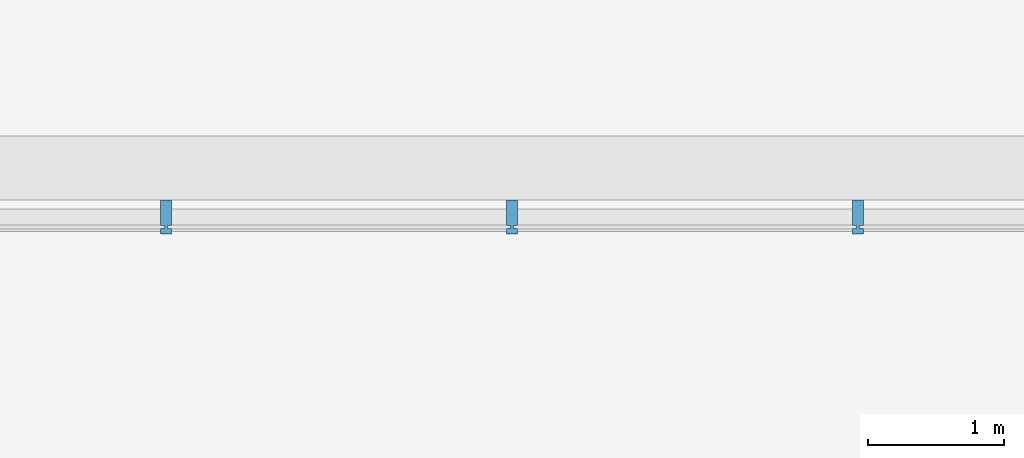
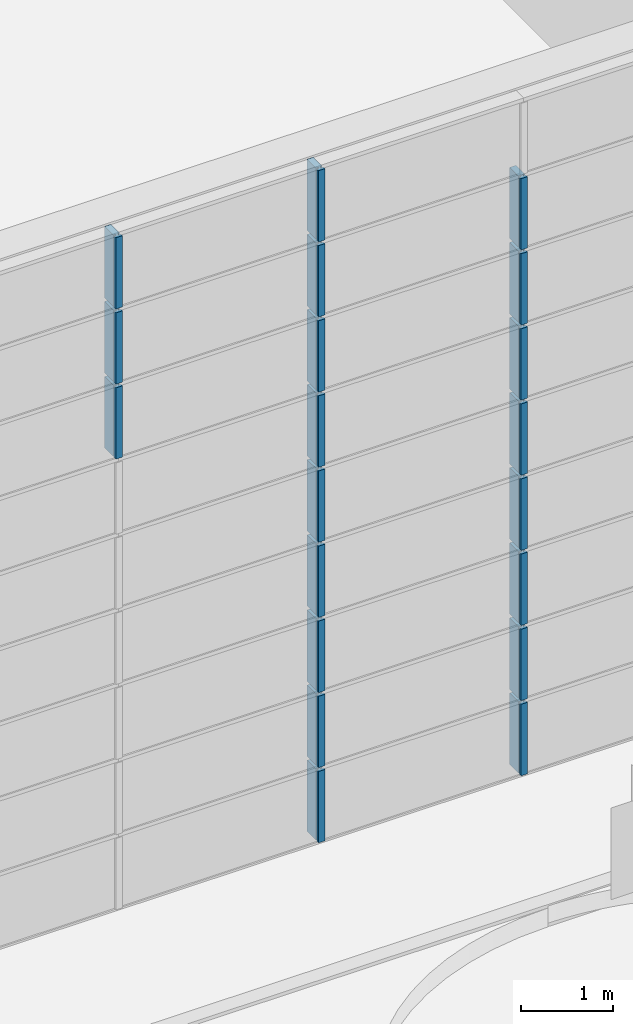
# One storey, part 95 of 105: 20 building element parts, 3 elements without a shape of their own.
"""IFC4 building model written with IfcOpenShell, lengths in millimetres."""

from ifc_helpers import new_model, entity, si_unit, converted_unit, derived_unit, direction, frame, origin_with_axes, place, context, subcontext, project, spatial, triangles, material, element, aggregate, save


model = new_model("IFC4")

# Units and contexts
model_context = context("Model", 3, precision=1e-05, world=origin_with_axes(), true_north=direction((0.0, 1.0)))
body_context = subcontext(model_context, "Body", "Model", "MODEL_VIEW")
ifc_project = project(units=[si_unit("LENGTHUNIT", "METRE", prefix="MILLI"), si_unit("AREAUNIT", "SQUARE_METRE"), si_unit("VOLUMEUNIT", "CUBIC_METRE"), converted_unit("PLANEANGLEUNIT", "DEGREE", entity("IfcLengthMeasure", 0.017453), si_unit("PLANEANGLEUNIT", "RADIAN"), dimensions=[0, 0, 0, 0, 0, 0, 0]), si_unit("SOLIDANGLEUNIT", "STERADIAN"), si_unit("MASSUNIT", "GRAM"), si_unit("TIMEUNIT", "SECOND"), si_unit("THERMODYNAMICTEMPERATUREUNIT", "DEGREE_CELSIUS"), si_unit("LUMINOUSINTENSITYUNIT", "LUMEN"), si_unit("POWERUNIT", "WATT"), derived_unit("THERMALTRANSMITTANCEUNIT", [(si_unit("POWERUNIT", "WATT"), 1), (si_unit("THERMODYNAMICTEMPERATUREUNIT", "KELVIN"), -1), (si_unit("AREAUNIT", "SQUARE_METRE"), -1)])], contexts=[model_context])

# Site, building, storey
site_placement = place(None, origin_with_axes())
site = spatial("IfcSite", under=ifc_project, at=site_placement, Name="Default Site", CompositionType="ELEMENT")
building_placement = place(site_placement, origin_with_axes())
building = spatial("IfcBuilding", under=site, at=building_placement, Name="Default Building", CompositionType="ELEMENT")
storey_placement = place(building_placement, origin_with_axes())
storey = spatial("IfcBuildingStorey", under=building, at=storey_placement, Name="OG - Story", CompositionType="ELEMENT", Elevation=0.0)

# Curtain wall, building element parts
curtain_wall_1_placement = place(storey_placement, origin_with_axes())
curtain_wall_1 = element("IfcCurtainWall", 1, at=curtain_wall_1_placement, inside=storey, Name="Fassade-005", PredefinedType="NOTDEFINED")
ifc_material = material(Name="Blech")
building_element_part_1_placement = place(curtain_wall_1_placement, frame((52496.845873, -27789.262838, 3000.0), z_axis=(0.0, 0.0, 1.0), x_axis=(1.0, 0.0, 0.0)))
building_element_part_1 = element("IfcBuildingElementPart", 2, at=building_element_part_1_placement, material=ifc_material, Name="Blech", PredefinedType="NOTDEFINED", context=body_context, shape_type="Tessellation", body=[
    triangles([(16620.909, 10.0, 975.0), (16620.909, 200.0, 975.0), (16590.909, 10.0, 975.0), (16570.909, 10.0, 975.0), (16590.909, -9.999, 975.0), (16620.909, -49.999, 975.0), (16620.909, -9.999, 975.0), (16540.909, 200.0, 975.0), (16540.909, 10.0, 975.0), (16570.909, -9.999, 975.0), (16540.909, -9.999, 975.0), (16540.909, -49.999, 975.0), (16590.909, 10.0, 25.0), (16620.909, 10.0, 25.0), (16620.909, 200.0, 25.0), (16540.909, 200.0, 25.0), (16540.909, 10.0, 25.0), (16570.909, 10.0, 25.0), (16570.909, -9.999, 25.0), (16540.909, -9.999, 25.0), (16540.909, -49.999, 25.0), (16620.909, -49.999, 25.0), (16620.909, -9.999, 25.0), (16590.909, -9.999, 25.0)], [[1, 2, 3], [3, 2, 4], [3, 4, 5], [5, 4, 6], [5, 6, 7], [8, 9, 4], [8, 4, 2], [6, 4, 10], [6, 10, 11], [6, 11, 12], [1, 3, 13], [1, 13, 14], [1, 14, 15], [1, 15, 2], [2, 15, 16], [2, 16, 8], [9, 8, 16], [9, 16, 17], [9, 17, 18], [9, 18, 4], [4, 18, 19], [4, 19, 10], [11, 10, 19], [11, 19, 20], [20, 21, 12], [20, 12, 11], [12, 21, 22], [12, 22, 6], [23, 7, 6], [23, 6, 22], [5, 7, 23], [5, 23, 24], [3, 5, 24], [3, 24, 13], [23, 22, 24], [24, 22, 19], [24, 19, 13], [13, 19, 15], [13, 15, 14], [21, 20, 19], [21, 19, 22], [15, 19, 18], [15, 18, 17], [15, 17, 16]], closed=False),
])
building_element_part_2_placement = place(curtain_wall_1_placement, frame((52496.845873, -27789.262838, 3000.0), z_axis=(0.0, 0.0, 1.0), x_axis=(1.0, 0.0, 0.0)))
building_element_part_2 = element("IfcBuildingElementPart", 3, at=building_element_part_2_placement, material=ifc_material, Name="Blech", PredefinedType="NOTDEFINED", context=body_context, shape_type="Tessellation", body=[
    triangles([(19171.818, 10.0, 975.0), (19171.818, 200.0, 975.0), (19141.818, 10.0, 975.0), (19121.818, 10.0, 975.0), (19141.818, -9.999, 975.0), (19171.818, -49.999, 975.0), (19171.818, -9.999, 975.0), (19091.818, 200.0, 975.0), (19091.818, 10.0, 975.0), (19121.818, -9.999, 975.0), (19091.818, -9.999, 975.0), (19091.818, -49.999, 975.0), (19141.818, 10.0, 25.0), (19171.818, 10.0, 25.0), (19171.818, 200.0, 25.0), (19091.818, 200.0, 25.0), (19091.818, 10.0, 25.0), (19121.818, 10.0, 25.0), (19121.818, -9.999, 25.0), (19091.818, -9.999, 25.0), (19091.818, -49.999, 25.0), (19171.818, -49.999, 25.0), (19171.818, -9.999, 25.0), (19141.818, -9.999, 25.0)], [[1, 2, 3], [3, 2, 4], [3, 4, 5], [5, 4, 6], [5, 6, 7], [8, 9, 4], [8, 4, 2], [6, 4, 10], [6, 10, 11], [6, 11, 12], [1, 3, 13], [1, 13, 14], [1, 14, 15], [1, 15, 2], [2, 15, 16], [2, 16, 8], [9, 8, 16], [9, 16, 17], [9, 17, 18], [9, 18, 4], [4, 18, 19], [4, 19, 10], [11, 10, 19], [11, 19, 20], [20, 21, 12], [20, 12, 11], [12, 21, 22], [12, 22, 6], [23, 7, 6], [23, 6, 22], [5, 7, 23], [5, 23, 24], [3, 5, 24], [3, 24, 13], [23, 22, 24], [24, 22, 19], [24, 19, 13], [13, 19, 15], [13, 15, 14], [21, 20, 19], [21, 19, 22], [15, 19, 18], [15, 18, 17], [15, 17, 16]], closed=False),
])
building_element_part_3_placement = place(curtain_wall_1_placement, frame((52496.845873, -27789.262838, 3000.0), z_axis=(0.0, 0.0, 1.0), x_axis=(1.0, 0.0, 0.0)))
building_element_part_3 = element("IfcBuildingElementPart", 4, at=building_element_part_3_placement, material=ifc_material, Name="Blech", PredefinedType="NOTDEFINED", context=body_context, shape_type="Tessellation", body=[
    triangles([(16620.909, 10.0, 1975.0), (16620.909, 200.0, 1975.0), (16590.909, 10.0, 1975.0), (16570.909, 10.0, 1975.0), (16590.909, -9.999, 1975.0), (16620.909, -49.999, 1975.0), (16620.909, -9.999, 1975.0), (16540.909, 200.0, 1975.0), (16540.909, 10.0, 1975.0), (16570.909, -9.999, 1975.0), (16540.909, -9.999, 1975.0), (16540.909, -49.999, 1975.0), (16590.909, 10.0, 1025.0), (16620.909, 10.0, 1025.0), (16620.909, 200.0, 1025.0), (16540.909, 200.0, 1025.0), (16540.909, 10.0, 1025.0), (16570.909, 10.0, 1025.0), (16570.909, -9.999, 1025.0), (16540.909, -9.999, 1025.0), (16540.909, -49.999, 1025.0), (16620.909, -49.999, 1025.0), (16620.909, -9.999, 1025.0), (16590.909, -9.999, 1025.0)], [[1, 2, 3], [3, 2, 4], [3, 4, 5], [5, 4, 6], [5, 6, 7], [8, 9, 4], [8, 4, 2], [6, 4, 10], [6, 10, 11], [6, 11, 12], [1, 3, 13], [1, 13, 14], [1, 14, 15], [1, 15, 2], [2, 15, 16], [2, 16, 8], [9, 8, 16], [9, 16, 17], [9, 17, 18], [9, 18, 4], [4, 18, 19], [4, 19, 10], [11, 10, 19], [11, 19, 20], [20, 21, 12], [20, 12, 11], [12, 21, 22], [12, 22, 6], [23, 7, 6], [23, 6, 22], [5, 7, 23], [5, 23, 24], [3, 5, 24], [3, 24, 13], [23, 22, 24], [24, 22, 19], [24, 19, 13], [13, 19, 15], [13, 15, 14], [21, 20, 19], [21, 19, 22], [15, 19, 18], [15, 18, 17], [15, 17, 16]], closed=False),
])
building_element_part_4_placement = place(curtain_wall_1_placement, frame((52496.845873, -27789.262838, 3000.0), z_axis=(0.0, 0.0, 1.0), x_axis=(1.0, 0.0, 0.0)))
building_element_part_4 = element("IfcBuildingElementPart", 5, at=building_element_part_4_placement, material=ifc_material, Name="Blech", PredefinedType="NOTDEFINED", context=body_context, shape_type="Tessellation", body=[
    triangles([(19171.818, 10.0, 1975.0), (19171.818, 200.0, 1975.0), (19141.818, 10.0, 1975.0), (19121.818, 10.0, 1975.0), (19141.818, -9.999, 1975.0), (19171.818, -49.999, 1975.0), (19171.818, -9.999, 1975.0), (19091.818, 200.0, 1975.0), (19091.818, 10.0, 1975.0), (19121.818, -9.999, 1975.0), (19091.818, -9.999, 1975.0), (19091.818, -49.999, 1975.0), (19141.818, 10.0, 1025.0), (19171.818, 10.0, 1025.0), (19171.818, 200.0, 1025.0), (19091.818, 200.0, 1025.0), (19091.818, 10.0, 1025.0), (19121.818, 10.0, 1025.0), (19121.818, -9.999, 1025.0), (19091.818, -9.999, 1025.0), (19091.818, -49.999, 1025.0), (19171.818, -49.999, 1025.0), (19171.818, -9.999, 1025.0), (19141.818, -9.999, 1025.0)], [[1, 2, 3], [3, 2, 4], [3, 4, 5], [5, 4, 6], [5, 6, 7], [8, 9, 4], [8, 4, 2], [6, 4, 10], [6, 10, 11], [6, 11, 12], [1, 3, 13], [1, 13, 14], [1, 14, 15], [1, 15, 2], [2, 15, 16], [2, 16, 8], [9, 8, 16], [9, 16, 17], [9, 17, 18], [9, 18, 4], [4, 18, 19], [4, 19, 10], [11, 10, 19], [11, 19, 20], [20, 21, 12], [20, 12, 11], [12, 21, 22], [12, 22, 6], [23, 7, 6], [23, 6, 22], [5, 7, 23], [5, 23, 24], [3, 5, 24], [3, 24, 13], [23, 22, 24], [24, 22, 19], [24, 19, 13], [13, 19, 15], [13, 15, 14], [21, 20, 19], [21, 19, 22], [15, 19, 18], [15, 18, 17], [15, 17, 16]], closed=False),
])
building_element_part_5_placement = place(curtain_wall_1_placement, frame((52496.845873, -27789.262838, 3000.0), z_axis=(0.0, 0.0, 1.0), x_axis=(1.0, 0.0, 0.0)))
building_element_part_5 = element("IfcBuildingElementPart", 6, at=building_element_part_5_placement, material=ifc_material, Name="Blech", PredefinedType="NOTDEFINED", context=body_context, shape_type="Tessellation", body=[
    triangles([(16620.909, 10.0, 2975.0), (16620.909, 200.0, 2975.0), (16590.909, 10.0, 2975.0), (16570.909, 10.0, 2975.0), (16590.909, -9.999, 2975.0), (16620.909, -49.999, 2975.0), (16620.909, -9.999, 2975.0), (16540.909, 200.0, 2975.0), (16540.909, 10.0, 2975.0), (16570.909, -9.999, 2975.0), (16540.909, -9.999, 2975.0), (16540.909, -49.999, 2975.0), (16590.909, 10.0, 2025.0), (16620.909, 10.0, 2025.0), (16620.909, 200.0, 2025.0), (16540.909, 200.0, 2025.0), (16540.909, 10.0, 2025.0), (16570.909, 10.0, 2025.0), (16570.909, -9.999, 2025.0), (16540.909, -9.999, 2025.0), (16540.909, -49.999, 2025.0), (16620.909, -49.999, 2025.0), (16620.909, -9.999, 2025.0), (16590.909, -9.999, 2025.0)], [[1, 2, 3], [3, 2, 4], [3, 4, 5], [5, 4, 6], [5, 6, 7], [8, 9, 4], [8, 4, 2], [6, 4, 10], [6, 10, 11], [6, 11, 12], [1, 3, 13], [1, 13, 14], [1, 14, 15], [1, 15, 2], [2, 15, 16], [2, 16, 8], [9, 8, 16], [9, 16, 17], [9, 17, 18], [9, 18, 4], [4, 18, 19], [4, 19, 10], [11, 10, 19], [11, 19, 20], [20, 21, 12], [20, 12, 11], [12, 21, 22], [12, 22, 6], [23, 7, 6], [23, 6, 22], [5, 7, 23], [5, 23, 24], [3, 5, 24], [3, 24, 13], [23, 22, 24], [24, 22, 19], [24, 19, 13], [13, 19, 15], [13, 15, 14], [21, 20, 19], [21, 19, 22], [15, 19, 18], [15, 18, 17], [15, 17, 16]], closed=False),
])
building_element_part_6_placement = place(curtain_wall_1_placement, frame((52496.845873, -27789.262838, 3000.0), z_axis=(0.0, 0.0, 1.0), x_axis=(1.0, 0.0, 0.0)))
building_element_part_6 = element("IfcBuildingElementPart", 7, at=building_element_part_6_placement, material=ifc_material, Name="Blech", PredefinedType="NOTDEFINED", context=body_context, shape_type="Tessellation", body=[
    triangles([(19171.818, 10.0, 2975.0), (19171.818, 200.0, 2975.0), (19141.818, 10.0, 2975.0), (19121.818, 10.0, 2975.0), (19141.818, -9.999, 2975.0), (19171.818, -49.999, 2975.0), (19171.818, -9.999, 2975.0), (19091.818, 200.0, 2975.0), (19091.818, 10.0, 2975.0), (19121.818, -9.999, 2975.0), (19091.818, -9.999, 2975.0), (19091.818, -49.999, 2975.0), (19141.818, 10.0, 2025.0), (19171.818, 10.0, 2025.0), (19171.818, 200.0, 2025.0), (19091.818, 200.0, 2025.0), (19091.818, 10.0, 2025.0), (19121.818, 10.0, 2025.0), (19121.818, -9.999, 2025.0), (19091.818, -9.999, 2025.0), (19091.818, -49.999, 2025.0), (19171.818, -49.999, 2025.0), (19171.818, -9.999, 2025.0), (19141.818, -9.999, 2025.0)], [[1, 2, 3], [3, 2, 4], [3, 4, 5], [5, 4, 6], [5, 6, 7], [8, 9, 4], [8, 4, 2], [6, 4, 10], [6, 10, 11], [6, 11, 12], [1, 3, 13], [1, 13, 14], [1, 14, 15], [1, 15, 2], [2, 15, 16], [2, 16, 8], [9, 8, 16], [9, 16, 17], [9, 17, 18], [9, 18, 4], [4, 18, 19], [4, 19, 10], [11, 10, 19], [11, 19, 20], [20, 21, 12], [20, 12, 11], [12, 21, 22], [12, 22, 6], [23, 7, 6], [23, 6, 22], [5, 7, 23], [5, 23, 24], [3, 5, 24], [3, 24, 13], [23, 22, 24], [24, 22, 19], [24, 19, 13], [13, 19, 15], [13, 15, 14], [21, 20, 19], [21, 19, 22], [15, 19, 18], [15, 18, 17], [15, 17, 16]], closed=False),
])
aggregate(curtain_wall_1, [building_element_part_1, building_element_part_2, building_element_part_3, building_element_part_4, building_element_part_5, building_element_part_6])

curtain_wall_2_placement = place(storey_placement, origin_with_axes())
curtain_wall_2 = element("IfcCurtainWall", 8, at=curtain_wall_2_placement, inside=storey, Name="Fassade-005", PredefinedType="NOTDEFINED")
building_element_part_7_placement = place(curtain_wall_2_placement, frame((52496.845873, -27789.262838, 6000.0), z_axis=(0.0, 0.0, 1.0), x_axis=(1.0, 0.0, 0.0)))
building_element_part_7 = element("IfcBuildingElementPart", 9, at=building_element_part_7_placement, material=ifc_material, Name="Blech", PredefinedType="NOTDEFINED", context=body_context, shape_type="Tessellation", body=[
    triangles([(16620.909, 10.0, 975.0), (16620.909, 200.0, 975.0), (16590.909, 10.0, 975.0), (16570.909, 10.0, 975.0), (16590.909, -9.999, 975.0), (16620.909, -49.999, 975.0), (16620.909, -9.999, 975.0), (16540.909, 200.0, 975.0), (16540.909, 10.0, 975.0), (16570.909, -9.999, 975.0), (16540.909, -9.999, 975.0), (16540.909, -49.999, 975.0), (16590.909, 10.0, 25.0), (16620.909, 10.0, 25.0), (16620.909, 200.0, 25.0), (16540.909, 200.0, 25.0), (16540.909, 10.0, 25.0), (16570.909, 10.0, 25.0), (16570.909, -9.999, 25.0), (16540.909, -9.999, 25.0), (16540.909, -49.999, 25.0), (16620.909, -49.999, 25.0), (16620.909, -9.999, 25.0), (16590.909, -9.999, 25.0)], [[1, 2, 3], [3, 2, 4], [3, 4, 5], [5, 4, 6], [5, 6, 7], [8, 9, 4], [8, 4, 2], [6, 4, 10], [6, 10, 11], [6, 11, 12], [1, 3, 13], [1, 13, 14], [1, 14, 15], [1, 15, 2], [2, 15, 16], [2, 16, 8], [9, 8, 16], [9, 16, 17], [9, 17, 18], [9, 18, 4], [4, 18, 19], [4, 19, 10], [11, 10, 19], [11, 19, 20], [20, 21, 12], [20, 12, 11], [12, 21, 22], [12, 22, 6], [23, 7, 6], [23, 6, 22], [5, 7, 23], [5, 23, 24], [3, 5, 24], [3, 24, 13], [23, 22, 24], [24, 22, 19], [24, 19, 13], [13, 19, 15], [13, 15, 14], [21, 20, 19], [21, 19, 22], [15, 19, 18], [15, 18, 17], [15, 17, 16]], closed=False),
])
building_element_part_8_placement = place(curtain_wall_2_placement, frame((52496.845873, -27789.262838, 6000.0), z_axis=(0.0, 0.0, 1.0), x_axis=(1.0, 0.0, 0.0)))
building_element_part_8 = element("IfcBuildingElementPart", 10, at=building_element_part_8_placement, material=ifc_material, Name="Blech", PredefinedType="NOTDEFINED", context=body_context, shape_type="Tessellation", body=[
    triangles([(19171.818, 10.0, 975.0), (19171.818, 200.0, 975.0), (19141.818, 10.0, 975.0), (19121.818, 10.0, 975.0), (19141.818, -9.999, 975.0), (19171.818, -49.999, 975.0), (19171.818, -9.999, 975.0), (19091.818, 200.0, 975.0), (19091.818, 10.0, 975.0), (19121.818, -9.999, 975.0), (19091.818, -9.999, 975.0), (19091.818, -49.999, 975.0), (19141.818, 10.0, 25.0), (19171.818, 10.0, 25.0), (19171.818, 200.0, 25.0), (19091.818, 200.0, 25.0), (19091.818, 10.0, 25.0), (19121.818, 10.0, 25.0), (19121.818, -9.999, 25.0), (19091.818, -9.999, 25.0), (19091.818, -49.999, 25.0), (19171.818, -49.999, 25.0), (19171.818, -9.999, 25.0), (19141.818, -9.999, 25.0)], [[1, 2, 3], [3, 2, 4], [3, 4, 5], [5, 4, 6], [5, 6, 7], [8, 9, 4], [8, 4, 2], [6, 4, 10], [6, 10, 11], [6, 11, 12], [1, 3, 13], [1, 13, 14], [1, 14, 15], [1, 15, 2], [2, 15, 16], [2, 16, 8], [9, 8, 16], [9, 16, 17], [9, 17, 18], [9, 18, 4], [4, 18, 19], [4, 19, 10], [11, 10, 19], [11, 19, 20], [20, 21, 12], [20, 12, 11], [12, 21, 22], [12, 22, 6], [23, 7, 6], [23, 6, 22], [5, 7, 23], [5, 23, 24], [3, 5, 24], [3, 24, 13], [23, 22, 24], [24, 22, 19], [24, 19, 13], [13, 19, 15], [13, 15, 14], [21, 20, 19], [21, 19, 22], [15, 19, 18], [15, 18, 17], [15, 17, 16]], closed=False),
])
building_element_part_9_placement = place(curtain_wall_2_placement, frame((52496.845873, -27789.262838, 6000.0), z_axis=(0.0, 0.0, 1.0), x_axis=(1.0, 0.0, 0.0)))
building_element_part_9 = element("IfcBuildingElementPart", 11, at=building_element_part_9_placement, material=ifc_material, Name="Blech", PredefinedType="NOTDEFINED", context=body_context, shape_type="Tessellation", body=[
    triangles([(16620.909, 10.0, 1975.0), (16620.909, 200.0, 1975.0), (16590.909, 10.0, 1975.0), (16570.909, 10.0, 1975.0), (16590.909, -9.999, 1975.0), (16620.909, -49.999, 1975.0), (16620.909, -9.999, 1975.0), (16540.909, 200.0, 1975.0), (16540.909, 10.0, 1975.0), (16570.909, -9.999, 1975.0), (16540.909, -9.999, 1975.0), (16540.909, -49.999, 1975.0), (16590.909, 10.0, 1025.0), (16620.909, 10.0, 1025.0), (16620.909, 200.0, 1025.0), (16540.909, 200.0, 1025.0), (16540.909, 10.0, 1025.0), (16570.909, 10.0, 1025.0), (16570.909, -9.999, 1025.0), (16540.909, -9.999, 1025.0), (16540.909, -49.999, 1025.0), (16620.909, -49.999, 1025.0), (16620.909, -9.999, 1025.0), (16590.909, -9.999, 1025.0)], [[1, 2, 3], [3, 2, 4], [3, 4, 5], [5, 4, 6], [5, 6, 7], [8, 9, 4], [8, 4, 2], [6, 4, 10], [6, 10, 11], [6, 11, 12], [1, 3, 13], [1, 13, 14], [1, 14, 15], [1, 15, 2], [2, 15, 16], [2, 16, 8], [9, 8, 16], [9, 16, 17], [9, 17, 18], [9, 18, 4], [4, 18, 19], [4, 19, 10], [11, 10, 19], [11, 19, 20], [20, 21, 12], [20, 12, 11], [12, 21, 22], [12, 22, 6], [23, 7, 6], [23, 6, 22], [5, 7, 23], [5, 23, 24], [3, 5, 24], [3, 24, 13], [23, 22, 24], [24, 22, 19], [24, 19, 13], [13, 19, 15], [13, 15, 14], [21, 20, 19], [21, 19, 22], [15, 19, 18], [15, 18, 17], [15, 17, 16]], closed=False),
])
building_element_part_10_placement = place(curtain_wall_2_placement, frame((52496.845873, -27789.262838, 6000.0), z_axis=(0.0, 0.0, 1.0), x_axis=(1.0, 0.0, 0.0)))
building_element_part_10 = element("IfcBuildingElementPart", 12, at=building_element_part_10_placement, material=ifc_material, Name="Blech", PredefinedType="NOTDEFINED", context=body_context, shape_type="Tessellation", body=[
    triangles([(19171.818, 10.0, 1975.0), (19171.818, 200.0, 1975.0), (19141.818, 10.0, 1975.0), (19121.818, 10.0, 1975.0), (19141.818, -9.999, 1975.0), (19171.818, -49.999, 1975.0), (19171.818, -9.999, 1975.0), (19091.818, 200.0, 1975.0), (19091.818, 10.0, 1975.0), (19121.818, -9.999, 1975.0), (19091.818, -9.999, 1975.0), (19091.818, -49.999, 1975.0), (19141.818, 10.0, 1025.0), (19171.818, 10.0, 1025.0), (19171.818, 200.0, 1025.0), (19091.818, 200.0, 1025.0), (19091.818, 10.0, 1025.0), (19121.818, 10.0, 1025.0), (19121.818, -9.999, 1025.0), (19091.818, -9.999, 1025.0), (19091.818, -49.999, 1025.0), (19171.818, -49.999, 1025.0), (19171.818, -9.999, 1025.0), (19141.818, -9.999, 1025.0)], [[1, 2, 3], [3, 2, 4], [3, 4, 5], [5, 4, 6], [5, 6, 7], [8, 9, 4], [8, 4, 2], [6, 4, 10], [6, 10, 11], [6, 11, 12], [1, 3, 13], [1, 13, 14], [1, 14, 15], [1, 15, 2], [2, 15, 16], [2, 16, 8], [9, 8, 16], [9, 16, 17], [9, 17, 18], [9, 18, 4], [4, 18, 19], [4, 19, 10], [11, 10, 19], [11, 19, 20], [20, 21, 12], [20, 12, 11], [12, 21, 22], [12, 22, 6], [23, 7, 6], [23, 6, 22], [5, 7, 23], [5, 23, 24], [3, 5, 24], [3, 24, 13], [23, 22, 24], [24, 22, 19], [24, 19, 13], [13, 19, 15], [13, 15, 14], [21, 20, 19], [21, 19, 22], [15, 19, 18], [15, 18, 17], [15, 17, 16]], closed=False),
])
building_element_part_11_placement = place(curtain_wall_2_placement, frame((52496.845873, -27789.262838, 6000.0), z_axis=(0.0, 0.0, 1.0), x_axis=(1.0, 0.0, 0.0)))
building_element_part_11 = element("IfcBuildingElementPart", 13, at=building_element_part_11_placement, material=ifc_material, Name="Blech", PredefinedType="NOTDEFINED", context=body_context, shape_type="Tessellation", body=[
    triangles([(16620.909, 10.0, 2975.0), (16620.909, 200.0, 2975.0), (16590.909, 10.0, 2975.0), (16570.909, 10.0, 2975.0), (16590.909, -9.999, 2975.0), (16620.909, -49.999, 2975.0), (16620.909, -9.999, 2975.0), (16540.909, 200.0, 2975.0), (16540.909, 10.0, 2975.0), (16570.909, -9.999, 2975.0), (16540.909, -9.999, 2975.0), (16540.909, -49.999, 2975.0), (16590.909, 10.0, 2025.0), (16620.909, 10.0, 2025.0), (16620.909, 200.0, 2025.0), (16540.909, 200.0, 2025.0), (16540.909, 10.0, 2025.0), (16570.909, 10.0, 2025.0), (16570.909, -9.999, 2025.0), (16540.909, -9.999, 2025.0), (16540.909, -49.999, 2025.0), (16620.909, -49.999, 2025.0), (16620.909, -9.999, 2025.0), (16590.909, -9.999, 2025.0)], [[1, 2, 3], [3, 2, 4], [3, 4, 5], [5, 4, 6], [5, 6, 7], [8, 9, 4], [8, 4, 2], [6, 4, 10], [6, 10, 11], [6, 11, 12], [1, 3, 13], [1, 13, 14], [1, 14, 15], [1, 15, 2], [2, 15, 16], [2, 16, 8], [9, 8, 16], [9, 16, 17], [9, 17, 18], [9, 18, 4], [4, 18, 19], [4, 19, 10], [11, 10, 19], [11, 19, 20], [20, 21, 12], [20, 12, 11], [12, 21, 22], [12, 22, 6], [23, 7, 6], [23, 6, 22], [5, 7, 23], [5, 23, 24], [3, 5, 24], [3, 24, 13], [23, 22, 24], [24, 22, 19], [24, 19, 13], [13, 19, 15], [13, 15, 14], [21, 20, 19], [21, 19, 22], [15, 19, 18], [15, 18, 17], [15, 17, 16]], closed=False),
])
building_element_part_12_placement = place(curtain_wall_2_placement, frame((52496.845873, -27789.262838, 6000.0), z_axis=(0.0, 0.0, 1.0), x_axis=(1.0, 0.0, 0.0)))
building_element_part_12 = element("IfcBuildingElementPart", 14, at=building_element_part_12_placement, material=ifc_material, Name="Blech", PredefinedType="NOTDEFINED", context=body_context, shape_type="Tessellation", body=[
    triangles([(19171.818, 10.0, 2975.0), (19171.818, 200.0, 2975.0), (19141.818, 10.0, 2975.0), (19121.818, 10.0, 2975.0), (19141.818, -9.999, 2975.0), (19171.818, -49.999, 2975.0), (19171.818, -9.999, 2975.0), (19091.818, 200.0, 2975.0), (19091.818, 10.0, 2975.0), (19121.818, -9.999, 2975.0), (19091.818, -9.999, 2975.0), (19091.818, -49.999, 2975.0), (19141.818, 10.0, 2025.0), (19171.818, 10.0, 2025.0), (19171.818, 200.0, 2025.0), (19091.818, 200.0, 2025.0), (19091.818, 10.0, 2025.0), (19121.818, 10.0, 2025.0), (19121.818, -9.999, 2025.0), (19091.818, -9.999, 2025.0), (19091.818, -49.999, 2025.0), (19171.818, -49.999, 2025.0), (19171.818, -9.999, 2025.0), (19141.818, -9.999, 2025.0)], [[1, 2, 3], [3, 2, 4], [3, 4, 5], [5, 4, 6], [5, 6, 7], [8, 9, 4], [8, 4, 2], [6, 4, 10], [6, 10, 11], [6, 11, 12], [1, 3, 13], [1, 13, 14], [1, 14, 15], [1, 15, 2], [2, 15, 16], [2, 16, 8], [9, 8, 16], [9, 16, 17], [9, 17, 18], [9, 18, 4], [4, 18, 19], [4, 19, 10], [11, 10, 19], [11, 19, 20], [20, 21, 12], [20, 12, 11], [12, 21, 22], [12, 22, 6], [23, 7, 6], [23, 6, 22], [5, 7, 23], [5, 23, 24], [3, 5, 24], [3, 24, 13], [23, 22, 24], [24, 22, 19], [24, 19, 13], [13, 19, 15], [13, 15, 14], [21, 20, 19], [21, 19, 22], [15, 19, 18], [15, 18, 17], [15, 17, 16]], closed=False),
])
aggregate(curtain_wall_2, [building_element_part_7, building_element_part_8, building_element_part_9, building_element_part_10, building_element_part_11, building_element_part_12])

curtain_wall_3_placement = place(storey_placement, origin_with_axes())
curtain_wall_3 = element("IfcCurtainWall", 15, at=curtain_wall_3_placement, inside=storey, Name="Fassade-005", PredefinedType="NOTDEFINED")
building_element_part_13_placement = place(curtain_wall_3_placement, frame((52496.845873, -27789.262838, 9000.0), z_axis=(0.0, 0.0, 1.0), x_axis=(1.0, 0.0, 0.0)))
building_element_part_13 = element("IfcBuildingElementPart", 16, at=building_element_part_13_placement, material=ifc_material, Name="Blech", PredefinedType="NOTDEFINED", context=body_context, shape_type="Tessellation", body=[
    triangles([(14070.0, 10.0, 975.0), (14070.0, 200.0, 975.0), (14040.0, 10.0, 975.0), (14020.0, 10.0, 975.0), (14040.0, -9.999, 975.0), (14070.0, -49.999, 975.0), (14070.0, -9.999, 975.0), (13990.0, 200.0, 975.0), (13990.0, 10.0, 975.0), (14020.0, -9.999, 975.0), (13990.0, -9.999, 975.0), (13990.0, -49.999, 975.0), (14040.0, 10.0, 25.0), (14070.0, 10.0, 25.0), (14070.0, 200.0, 25.0), (13990.0, 200.0, 25.0), (13990.0, 10.0, 25.0), (14020.0, 10.0, 25.0), (14020.0, -9.999, 25.0), (13990.0, -9.999, 25.0), (13990.0, -49.999, 25.0), (14070.0, -49.999, 25.0), (14070.0, -9.999, 25.0), (14040.0, -9.999, 25.0)], [[1, 2, 3], [3, 2, 4], [3, 4, 5], [5, 4, 6], [5, 6, 7], [8, 9, 4], [8, 4, 2], [6, 4, 10], [6, 10, 11], [6, 11, 12], [1, 3, 13], [1, 13, 14], [1, 14, 15], [1, 15, 2], [2, 15, 16], [2, 16, 8], [9, 8, 16], [9, 16, 17], [9, 17, 18], [9, 18, 4], [4, 18, 19], [4, 19, 10], [11, 10, 19], [11, 19, 20], [20, 21, 12], [20, 12, 11], [12, 21, 22], [12, 22, 6], [23, 7, 6], [23, 6, 22], [5, 7, 23], [5, 23, 24], [3, 5, 24], [3, 24, 13], [23, 22, 24], [24, 22, 19], [24, 19, 13], [13, 19, 15], [13, 15, 14], [21, 20, 19], [21, 19, 22], [15, 19, 18], [15, 18, 17], [15, 17, 16]], closed=False),
])
building_element_part_14_placement = place(curtain_wall_3_placement, frame((52496.845873, -27789.262838, 9000.0), z_axis=(0.0, 0.0, 1.0), x_axis=(1.0, 0.0, 0.0)))
building_element_part_14 = element("IfcBuildingElementPart", 17, at=building_element_part_14_placement, material=ifc_material, Name="Blech", PredefinedType="NOTDEFINED", context=body_context, shape_type="Tessellation", body=[
    triangles([(16620.909, 10.0, 975.0), (16620.909, 200.0, 975.0), (16590.909, 10.0, 975.0), (16570.909, 10.0, 975.0), (16590.909, -9.999, 975.0), (16620.909, -49.999, 975.0), (16620.909, -9.999, 975.0), (16540.909, 200.0, 975.0), (16540.909, 10.0, 975.0), (16570.909, -9.999, 975.0), (16540.909, -9.999, 975.0), (16540.909, -49.999, 975.0), (16590.909, 10.0, 25.0), (16620.909, 10.0, 25.0), (16620.909, 200.0, 25.0), (16540.909, 200.0, 25.0), (16540.909, 10.0, 25.0), (16570.909, 10.0, 25.0), (16570.909, -9.999, 25.0), (16540.909, -9.999, 25.0), (16540.909, -49.999, 25.0), (16620.909, -49.999, 25.0), (16620.909, -9.999, 25.0), (16590.909, -9.999, 25.0)], [[1, 2, 3], [3, 2, 4], [3, 4, 5], [5, 4, 6], [5, 6, 7], [8, 9, 4], [8, 4, 2], [6, 4, 10], [6, 10, 11], [6, 11, 12], [1, 3, 13], [1, 13, 14], [1, 14, 15], [1, 15, 2], [2, 15, 16], [2, 16, 8], [9, 8, 16], [9, 16, 17], [9, 17, 18], [9, 18, 4], [4, 18, 19], [4, 19, 10], [11, 10, 19], [11, 19, 20], [20, 21, 12], [20, 12, 11], [12, 21, 22], [12, 22, 6], [23, 7, 6], [23, 6, 22], [5, 7, 23], [5, 23, 24], [3, 5, 24], [3, 24, 13], [23, 22, 24], [24, 22, 19], [24, 19, 13], [13, 19, 15], [13, 15, 14], [21, 20, 19], [21, 19, 22], [15, 19, 18], [15, 18, 17], [15, 17, 16]], closed=False),
])
building_element_part_15_placement = place(curtain_wall_3_placement, frame((52496.845873, -27789.262838, 9000.0), z_axis=(0.0, 0.0, 1.0), x_axis=(1.0, 0.0, 0.0)))
building_element_part_15 = element("IfcBuildingElementPart", 18, at=building_element_part_15_placement, material=ifc_material, Name="Blech", PredefinedType="NOTDEFINED", context=body_context, shape_type="Tessellation", body=[
    triangles([(19171.818, 10.0, 975.0), (19171.818, 200.0, 975.0), (19141.818, 10.0, 975.0), (19121.818, 10.0, 975.0), (19141.818, -9.999, 975.0), (19171.818, -49.999, 975.0), (19171.818, -9.999, 975.0), (19091.818, 200.0, 975.0), (19091.818, 10.0, 975.0), (19121.818, -9.999, 975.0), (19091.818, -9.999, 975.0), (19091.818, -49.999, 975.0), (19141.818, 10.0, 25.0), (19171.818, 10.0, 25.0), (19171.818, 200.0, 25.0), (19091.818, 200.0, 25.0), (19091.818, 10.0, 25.0), (19121.818, 10.0, 25.0), (19121.818, -9.999, 25.0), (19091.818, -9.999, 25.0), (19091.818, -49.999, 25.0), (19171.818, -49.999, 25.0), (19171.818, -9.999, 25.0), (19141.818, -9.999, 25.0)], [[1, 2, 3], [3, 2, 4], [3, 4, 5], [5, 4, 6], [5, 6, 7], [8, 9, 4], [8, 4, 2], [6, 4, 10], [6, 10, 11], [6, 11, 12], [1, 3, 13], [1, 13, 14], [1, 14, 15], [1, 15, 2], [2, 15, 16], [2, 16, 8], [9, 8, 16], [9, 16, 17], [9, 17, 18], [9, 18, 4], [4, 18, 19], [4, 19, 10], [11, 10, 19], [11, 19, 20], [20, 21, 12], [20, 12, 11], [12, 21, 22], [12, 22, 6], [23, 7, 6], [23, 6, 22], [5, 7, 23], [5, 23, 24], [3, 5, 24], [3, 24, 13], [23, 22, 24], [24, 22, 19], [24, 19, 13], [13, 19, 15], [13, 15, 14], [21, 20, 19], [21, 19, 22], [15, 19, 18], [15, 18, 17], [15, 17, 16]], closed=False),
])
building_element_part_16_placement = place(curtain_wall_3_placement, frame((52496.845873, -27789.262838, 9000.0), z_axis=(0.0, 0.0, 1.0), x_axis=(1.0, 0.0, 0.0)))
building_element_part_16 = element("IfcBuildingElementPart", 19, at=building_element_part_16_placement, material=ifc_material, Name="Blech", PredefinedType="NOTDEFINED", context=body_context, shape_type="Tessellation", body=[
    triangles([(14070.0, 10.0, 1975.0), (14070.0, 200.0, 1975.0), (14040.0, 10.0, 1975.0), (14020.0, 10.0, 1975.0), (14040.0, -9.999, 1975.0), (14070.0, -49.999, 1975.0), (14070.0, -9.999, 1975.0), (13990.0, 200.0, 1975.0), (13990.0, 10.0, 1975.0), (14020.0, -9.999, 1975.0), (13990.0, -9.999, 1975.0), (13990.0, -49.999, 1975.0), (14040.0, 10.0, 1025.0), (14070.0, 10.0, 1025.0), (14070.0, 200.0, 1025.0), (13990.0, 200.0, 1025.0), (13990.0, 10.0, 1025.0), (14020.0, 10.0, 1025.0), (14020.0, -9.999, 1025.0), (13990.0, -9.999, 1025.0), (13990.0, -49.999, 1025.0), (14070.0, -49.999, 1025.0), (14070.0, -9.999, 1025.0), (14040.0, -9.999, 1025.0)], [[1, 2, 3], [3, 2, 4], [3, 4, 5], [5, 4, 6], [5, 6, 7], [8, 9, 4], [8, 4, 2], [6, 4, 10], [6, 10, 11], [6, 11, 12], [1, 3, 13], [1, 13, 14], [1, 14, 15], [1, 15, 2], [2, 15, 16], [2, 16, 8], [9, 8, 16], [9, 16, 17], [9, 17, 18], [9, 18, 4], [4, 18, 19], [4, 19, 10], [11, 10, 19], [11, 19, 20], [20, 21, 12], [20, 12, 11], [12, 21, 22], [12, 22, 6], [23, 7, 6], [23, 6, 22], [5, 7, 23], [5, 23, 24], [3, 5, 24], [3, 24, 13], [23, 22, 24], [24, 22, 19], [24, 19, 13], [13, 19, 15], [13, 15, 14], [21, 20, 19], [21, 19, 22], [15, 19, 18], [15, 18, 17], [15, 17, 16]], closed=False),
])
building_element_part_17_placement = place(curtain_wall_3_placement, frame((52496.845873, -27789.262838, 9000.0), z_axis=(0.0, 0.0, 1.0), x_axis=(1.0, 0.0, 0.0)))
building_element_part_17 = element("IfcBuildingElementPart", 20, at=building_element_part_17_placement, material=ifc_material, Name="Blech", PredefinedType="NOTDEFINED", context=body_context, shape_type="Tessellation", body=[
    triangles([(16620.909, 10.0, 1975.0), (16620.909, 200.0, 1975.0), (16590.909, 10.0, 1975.0), (16570.909, 10.0, 1975.0), (16590.909, -9.999, 1975.0), (16620.909, -49.999, 1975.0), (16620.909, -9.999, 1975.0), (16540.909, 200.0, 1975.0), (16540.909, 10.0, 1975.0), (16570.909, -9.999, 1975.0), (16540.909, -9.999, 1975.0), (16540.909, -49.999, 1975.0), (16590.909, 10.0, 1025.0), (16620.909, 10.0, 1025.0), (16620.909, 200.0, 1025.0), (16540.909, 200.0, 1025.0), (16540.909, 10.0, 1025.0), (16570.909, 10.0, 1025.0), (16570.909, -9.999, 1025.0), (16540.909, -9.999, 1025.0), (16540.909, -49.999, 1025.0), (16620.909, -49.999, 1025.0), (16620.909, -9.999, 1025.0), (16590.909, -9.999, 1025.0)], [[1, 2, 3], [3, 2, 4], [3, 4, 5], [5, 4, 6], [5, 6, 7], [8, 9, 4], [8, 4, 2], [6, 4, 10], [6, 10, 11], [6, 11, 12], [1, 3, 13], [1, 13, 14], [1, 14, 15], [1, 15, 2], [2, 15, 16], [2, 16, 8], [9, 8, 16], [9, 16, 17], [9, 17, 18], [9, 18, 4], [4, 18, 19], [4, 19, 10], [11, 10, 19], [11, 19, 20], [20, 21, 12], [20, 12, 11], [12, 21, 22], [12, 22, 6], [23, 7, 6], [23, 6, 22], [5, 7, 23], [5, 23, 24], [3, 5, 24], [3, 24, 13], [23, 22, 24], [24, 22, 19], [24, 19, 13], [13, 19, 15], [13, 15, 14], [21, 20, 19], [21, 19, 22], [15, 19, 18], [15, 18, 17], [15, 17, 16]], closed=False),
])
building_element_part_18_placement = place(curtain_wall_3_placement, frame((52496.845873, -27789.262838, 9000.0), z_axis=(0.0, 0.0, 1.0), x_axis=(1.0, 0.0, 0.0)))
building_element_part_18 = element("IfcBuildingElementPart", 21, at=building_element_part_18_placement, material=ifc_material, Name="Blech", PredefinedType="NOTDEFINED", context=body_context, shape_type="Tessellation", body=[
    triangles([(19171.818, 10.0, 1975.0), (19171.818, 200.0, 1975.0), (19141.818, 10.0, 1975.0), (19121.818, 10.0, 1975.0), (19141.818, -9.999, 1975.0), (19171.818, -49.999, 1975.0), (19171.818, -9.999, 1975.0), (19091.818, 200.0, 1975.0), (19091.818, 10.0, 1975.0), (19121.818, -9.999, 1975.0), (19091.818, -9.999, 1975.0), (19091.818, -49.999, 1975.0), (19141.818, 10.0, 1025.0), (19171.818, 10.0, 1025.0), (19171.818, 200.0, 1025.0), (19091.818, 200.0, 1025.0), (19091.818, 10.0, 1025.0), (19121.818, 10.0, 1025.0), (19121.818, -9.999, 1025.0), (19091.818, -9.999, 1025.0), (19091.818, -49.999, 1025.0), (19171.818, -49.999, 1025.0), (19171.818, -9.999, 1025.0), (19141.818, -9.999, 1025.0)], [[1, 2, 3], [3, 2, 4], [3, 4, 5], [5, 4, 6], [5, 6, 7], [8, 9, 4], [8, 4, 2], [6, 4, 10], [6, 10, 11], [6, 11, 12], [1, 3, 13], [1, 13, 14], [1, 14, 15], [1, 15, 2], [2, 15, 16], [2, 16, 8], [9, 8, 16], [9, 16, 17], [9, 17, 18], [9, 18, 4], [4, 18, 19], [4, 19, 10], [11, 10, 19], [11, 19, 20], [20, 21, 12], [20, 12, 11], [12, 21, 22], [12, 22, 6], [23, 7, 6], [23, 6, 22], [5, 7, 23], [5, 23, 24], [3, 5, 24], [3, 24, 13], [23, 22, 24], [24, 22, 19], [24, 19, 13], [13, 19, 15], [13, 15, 14], [21, 20, 19], [21, 19, 22], [15, 19, 18], [15, 18, 17], [15, 17, 16]], closed=False),
])
building_element_part_19_placement = place(curtain_wall_3_placement, frame((52496.845873, -27789.262838, 9000.0), z_axis=(0.0, 0.0, 1.0), x_axis=(1.0, 0.0, 0.0)))
building_element_part_19 = element("IfcBuildingElementPart", 22, at=building_element_part_19_placement, material=ifc_material, Name="Blech", PredefinedType="NOTDEFINED", context=body_context, shape_type="Tessellation", body=[
    triangles([(14070.0, 10.0, 2975.0), (14070.0, 200.0, 2975.0), (14040.0, 10.0, 2975.0), (14020.0, 10.0, 2975.0), (14040.0, -9.999, 2975.0), (14070.0, -49.999, 2975.0), (14070.0, -9.999, 2975.0), (13990.0, 200.0, 2975.0), (13990.0, 10.0, 2975.0), (14020.0, -9.999, 2975.0), (13990.0, -9.999, 2975.0), (13990.0, -49.999, 2975.0), (14040.0, 10.0, 2025.0), (14070.0, 10.0, 2025.0), (14070.0, 200.0, 2025.0), (13990.0, 200.0, 2025.0), (13990.0, 10.0, 2025.0), (14020.0, 10.0, 2025.0), (14020.0, -9.999, 2025.0), (13990.0, -9.999, 2025.0), (13990.0, -49.999, 2025.0), (14070.0, -49.999, 2025.0), (14070.0, -9.999, 2025.0), (14040.0, -9.999, 2025.0)], [[1, 2, 3], [3, 2, 4], [3, 4, 5], [5, 4, 6], [5, 6, 7], [8, 9, 4], [8, 4, 2], [6, 4, 10], [6, 10, 11], [6, 11, 12], [1, 3, 13], [1, 13, 14], [1, 14, 15], [1, 15, 2], [2, 15, 16], [2, 16, 8], [9, 8, 16], [9, 16, 17], [9, 17, 18], [9, 18, 4], [4, 18, 19], [4, 19, 10], [11, 10, 19], [11, 19, 20], [20, 21, 12], [20, 12, 11], [12, 21, 22], [12, 22, 6], [23, 7, 6], [23, 6, 22], [5, 7, 23], [5, 23, 24], [3, 5, 24], [3, 24, 13], [23, 22, 24], [24, 22, 19], [24, 19, 13], [13, 19, 15], [13, 15, 14], [21, 20, 19], [21, 19, 22], [15, 19, 18], [15, 18, 17], [15, 17, 16]], closed=False),
])
building_element_part_20_placement = place(curtain_wall_3_placement, frame((52496.845873, -27789.262838, 9000.0), z_axis=(0.0, 0.0, 1.0), x_axis=(1.0, 0.0, 0.0)))
building_element_part_20 = element("IfcBuildingElementPart", 23, at=building_element_part_20_placement, material=ifc_material, Name="Blech", PredefinedType="NOTDEFINED", context=body_context, shape_type="Tessellation", body=[
    triangles([(16620.909, 10.0, 2975.0), (16620.909, 200.0, 2975.0), (16590.909, 10.0, 2975.0), (16570.909, 10.0, 2975.0), (16590.909, -9.999, 2975.0), (16620.909, -49.999, 2975.0), (16620.909, -9.999, 2975.0), (16540.909, 200.0, 2975.0), (16540.909, 10.0, 2975.0), (16570.909, -9.999, 2975.0), (16540.909, -9.999, 2975.0), (16540.909, -49.999, 2975.0), (16590.909, 10.0, 2025.0), (16620.909, 10.0, 2025.0), (16620.909, 200.0, 2025.0), (16540.909, 200.0, 2025.0), (16540.909, 10.0, 2025.0), (16570.909, 10.0, 2025.0), (16570.909, -9.999, 2025.0), (16540.909, -9.999, 2025.0), (16540.909, -49.999, 2025.0), (16620.909, -49.999, 2025.0), (16620.909, -9.999, 2025.0), (16590.909, -9.999, 2025.0)], [[1, 2, 3], [3, 2, 4], [3, 4, 5], [5, 4, 6], [5, 6, 7], [8, 9, 4], [8, 4, 2], [6, 4, 10], [6, 10, 11], [6, 11, 12], [1, 3, 13], [1, 13, 14], [1, 14, 15], [1, 15, 2], [2, 15, 16], [2, 16, 8], [9, 8, 16], [9, 16, 17], [9, 17, 18], [9, 18, 4], [4, 18, 19], [4, 19, 10], [11, 10, 19], [11, 19, 20], [20, 21, 12], [20, 12, 11], [12, 21, 22], [12, 22, 6], [23, 7, 6], [23, 6, 22], [5, 7, 23], [5, 23, 24], [3, 5, 24], [3, 24, 13], [23, 22, 24], [24, 22, 19], [24, 19, 13], [13, 19, 15], [13, 15, 14], [21, 20, 19], [21, 19, 22], [15, 19, 18], [15, 18, 17], [15, 17, 16]], closed=False),
])
aggregate(curtain_wall_3, [building_element_part_13, building_element_part_14, building_element_part_15, building_element_part_16, building_element_part_17, building_element_part_18, building_element_part_19, building_element_part_20])

save(model, "model.ifc")
